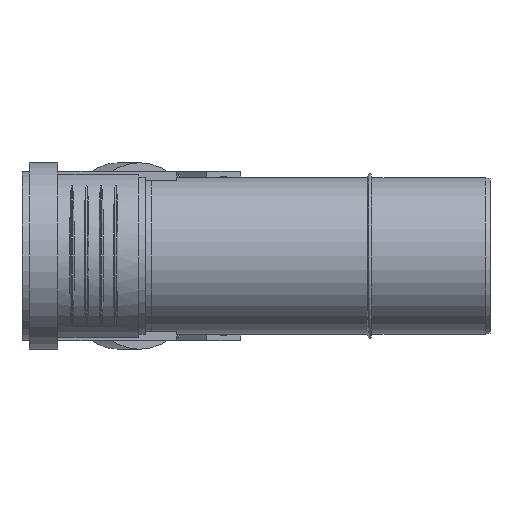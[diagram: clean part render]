
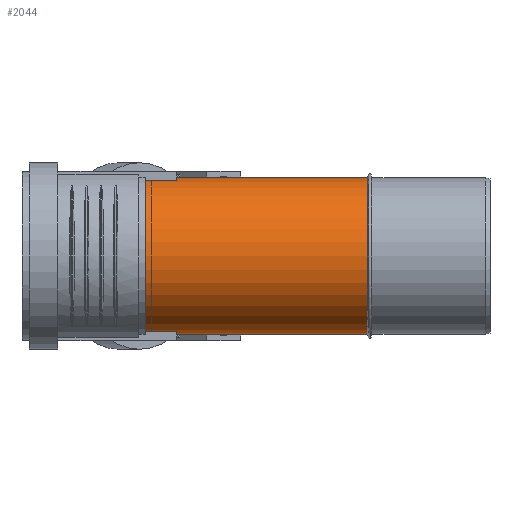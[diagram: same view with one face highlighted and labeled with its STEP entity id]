
A CAD part, left-side view. The second image highlights one B-rep face of the part: STEP entity #2044.
In plain terms, the highlighted cylindrical face has radius 37.6 mm (diameter 75.2 mm), a full revolution.
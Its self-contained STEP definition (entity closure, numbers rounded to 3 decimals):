
#81=CYLINDRICAL_SURFACE($,#2192,37.6);
#117=FACE_OUTER_BOUND($,#586,.T.);
#221=ELLIPSE($,#2190,40.698,37.6);
#222=ELLIPSE($,#2191,98.254,37.6);
#394=CIRCLE($,#2176,37.6);
#399=CIRCLE($,#2187,37.6);
#501=FACE_BOUND($,#587,.T.);
#502=FACE_BOUND($,#588,.T.);
#586=EDGE_LOOP($,(#1510));
#587=EDGE_LOOP($,(#1511));
#588=EDGE_LOOP($,(#1512,#1513));
#1004=VERTEX_POINT($,#3076);
#1009=VERTEX_POINT($,#3092);
#1010=VERTEX_POINT($,#3096);
#1011=VERTEX_POINT($,#3097);
#1212=EDGE_CURVE($,#1004,#1004,#394,.T.);
#1218=EDGE_CURVE($,#1009,#1009,#399,.T.);
#1219=EDGE_CURVE($,#1010,#1011,#221,.T.);
#1220=EDGE_CURVE($,#1011,#1010,#222,.T.);
#1510=ORIENTED_EDGE($,*,*,#1212,.T.);
#1511=ORIENTED_EDGE($,*,*,#1218,.T.);
#1512=ORIENTED_EDGE($,*,*,#1219,.T.);
#1513=ORIENTED_EDGE($,*,*,#1220,.T.);
#2044=ADVANCED_FACE($,(#117,#501,#502),#81,.T.);
#2176=AXIS2_PLACEMENT_3D($,#3077,#2425,#2426);
#2187=AXIS2_PLACEMENT_3D($,#3093,#2447,#2448);
#2190=AXIS2_PLACEMENT_3D($,#3098,#2453,#2454);
#2191=AXIS2_PLACEMENT_3D($,#3099,#2455,#2456);
#2192=AXIS2_PLACEMENT_3D($,#3100,#2457,#2458);
#2425=DIRECTION('center_axis',(0.,1.,0.));
#2426=DIRECTION('ref_axis',(1.,0.,0.));
#2447=DIRECTION('center_axis',(0.,-1.,0.));
#2448=DIRECTION('ref_axis',(1.,0.,0.));
#2453=DIRECTION('center_axis',(-0.383,-0.924,0.));
#2454=DIRECTION('ref_axis',(0.924,-0.383,0.));
#2455=DIRECTION('center_axis',(-0.924,0.383,0.));
#2456=DIRECTION('ref_axis',(-0.383,-0.924,0.));
#2457=DIRECTION('center_axis',(0.,1.,0.));
#2458=DIRECTION('ref_axis',(1.,0.,0.));
#3076=CARTESIAN_POINT('',(-37.6,58.95,0.));
#3077=CARTESIAN_POINT('Origin',(0.,58.95,0.));
#3092=CARTESIAN_POINT('',(37.6,165.8,0.));
#3093=CARTESIAN_POINT('Origin',(0.,165.8,0.));
#3096=CARTESIAN_POINT('',(0.,74.8,-37.6));
#3097=CARTESIAN_POINT('',(0.,74.8,37.6));
#3098=CARTESIAN_POINT('Origin',(0.,74.8,0.));
#3099=CARTESIAN_POINT('Origin',(0.,74.8,0.));
#3100=CARTESIAN_POINT('Origin',(0.,0.,0.));
